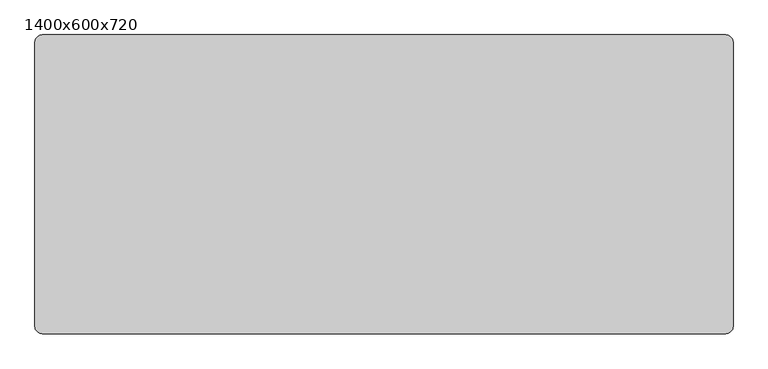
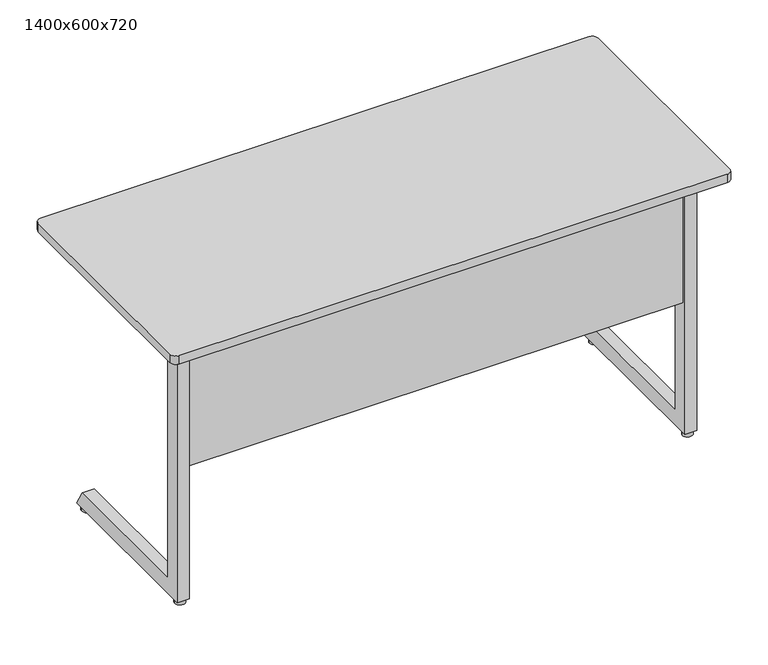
"""IFC4 building model written with IfcOpenShell, lengths in millimetres: furniture geometry, Trivia Light : 1400x600x720."""

import ifcopenshell
import ifcopenshell.guid

model = None  # the IFC model being written
_history = None  # IfcOwnerHistory: only IFC2X3 demands one
_inside = {}  # id of a spatial element -> (the spatial element, [elements in it])
_under = {}  # id of a project, library or spatial element -> (it, [spatial elements below it])
_declared = {}  # id of a project -> (the project, [libraries it declares])
_typed = {}  # id of a type object -> (the type object, [elements of that type])
_made_of = {}  # id of a material, layer set ... -> (it, [elements and type objects made of it])


def new_model(schema):
    """Start an empty IFC model of exactly this schema.

    Asked for "IFC4X3", IfcOpenShell would pick the latest addendum, in which some entities
    have other attributes; the version numbers below select the first issue.
    IFC2X3 requires an IfcOwnerHistory on every rooted entity: one is made here for all.
    """
    global model, _history
    if schema == "IFC4X3":
        model = ifcopenshell.file(schema_version=(4, 3, 0, 0))
    else:
        model = ifcopenshell.file(schema=schema)
    _inside.clear()
    _under.clear()
    _declared.clear()
    _typed.clear()
    _made_of.clear()
    _history = None
    if model.schema == "IFC2X3":
        org = make("IfcOrganization", Name="unknown")
        user = make(
            "IfcPersonAndOrganization",
            ThePerson=make("IfcPerson", FamilyName="unknown"),
            TheOrganization=org,
        )
        app = make(
            "IfcApplication",
            ApplicationDeveloper=org,
            Version="unknown",
            ApplicationFullName="unknown",
            ApplicationIdentifier="unknown",
        )
        _history = make(
            "IfcOwnerHistory",
            OwningUser=user,
            OwningApplication=app,
            ChangeAction="ADDED",
            CreationDate=0,
        )
    return model


def make(cls, **values):
    """One entity of the class cls with the attributes given. An attribute that is None is left unset."""
    return model.create_entity(
        cls, **{name: value for name, value in values.items() if value is not None}
    )


def rooted(cls, **values):
    """An entity with a GlobalId (a new one), such as an element, a storey or a relation."""
    return make(cls, GlobalId=ifcopenshell.guid.new(), OwnerHistory=_history, **values)


def si_unit(unit_type, name, prefix=None):
    """IfcSIUnit, for example si_unit("LENGTHUNIT", "METRE", prefix="MILLI")."""
    return make("IfcSIUnit", UnitType=unit_type, Prefix=prefix, Name=name)


def assignment(units):
    """IfcUnitAssignment: the units of a project."""
    return None if units is None else make("IfcUnitAssignment", Units=units)


def point(xyz):
    """IfcCartesianPoint."""
    return None if xyz is None else make("IfcCartesianPoint", Coordinates=xyz)


def direction(xyz):
    """IfcDirection."""
    return None if xyz is None else make("IfcDirection", DirectionRatios=xyz)


def frame(location, z_axis=None, x_axis=None):
    """IfcAxis2Placement3D, a coordinate frame: its origin and axes. An axis left out is left unset."""
    return make(
        "IfcAxis2Placement3D",
        Location=point(location),
        Axis=direction(z_axis),
        RefDirection=direction(x_axis),
    )


def frame_2d(location, x_axis=None):
    """IfcAxis2Placement2D, a coordinate frame in the plane: its origin and x axis."""
    return make(
        "IfcAxis2Placement2D", Location=point(location), RefDirection=direction(x_axis)
    )


def origin():
    """The frame at (0, 0, 0) with its axes left unset."""
    return frame((0.0, 0.0, 0.0))


def origin_with_axes():
    """The frame at (0, 0, 0) with the z axis (0, 0, 1) and the x axis (1, 0, 0) written out."""
    return frame((0.0, 0.0, 0.0), z_axis=(0.0, 0.0, 1.0), x_axis=(1.0, 0.0, 0.0))


def place(relative_to, where):
    """IfcLocalPlacement: puts the frame where relative to a parent placement (None: the world)."""
    return make(
        "IfcLocalPlacement", PlacementRelTo=relative_to, RelativePlacement=where
    )


def context(
    kind, dimensions, precision=None, world=None, true_north=None, identifier=None
):
    """IfcGeometricRepresentationContext, for example the 3D "Model" context."""
    return make(
        "IfcGeometricRepresentationContext",
        ContextIdentifier=identifier,
        ContextType=kind,
        CoordinateSpaceDimension=dimensions,
        Precision=precision,
        WorldCoordinateSystem=world,
        TrueNorth=true_north,
    )


def project(units=None, contexts=None):
    """IfcProject with its units and contexts."""
    return rooted(
        "IfcProject",
        Name="project",
        RepresentationContexts=contexts,
        UnitsInContext=assignment(units),
    )


def spatial(cls, under=None, at=None, **own):
    """A site, building, storey or space (cls), placed at a placement, below another one or the project."""
    s = rooted(cls, ObjectPlacement=at, **own)
    if under is not None:
        _under.setdefault(under.id(), (under, []))[1].append(s)
    return s


def polyline(points):
    """IfcPolyline through the points."""
    return make("IfcPolyline", Points=[point(p) for p in points])


def circle_curve(where, radius):
    """IfcCircle in the frame where."""
    return make("IfcCircle", Position=where, Radius=radius)


def trimmed(basis, trim1, trim2, sense, master):
    """IfcTrimmedCurve: the piece of a basis curve between two trims."""
    return make(
        "IfcTrimmedCurve",
        BasisCurve=basis,
        Trim1=trim1,
        Trim2=trim2,
        SenseAgreement=sense,
        MasterRepresentation=master,
    )


def segment(curve, same_sense, transition):
    """IfcCompositeCurveSegment."""
    return make(
        "IfcCompositeCurveSegment",
        Transition=transition,
        SameSense=same_sense,
        ParentCurve=curve,
    )


def composite_curve(segments, self_intersect=None):
    """IfcCompositeCurve: segments joined end to end."""
    return make("IfcCompositeCurve", Segments=segments, SelfIntersect=self_intersect)


def outline(outer, holes=None, kind="AREA"):
    """IfcArbitraryClosedProfileDef: a profile drawn as a closed curve; with holes, ...WithVoids."""
    if holes is None:
        return make("IfcArbitraryClosedProfileDef", ProfileType=kind, OuterCurve=outer)
    return make(
        "IfcArbitraryProfileDefWithVoids",
        ProfileType=kind,
        OuterCurve=outer,
        InnerCurves=holes,
    )


def extrude(swept, where, along, depth):
    """IfcExtrudedAreaSolid: the profile swept, set in the frame where, extruded along a direction by depth."""
    return make(
        "IfcExtrudedAreaSolid",
        SweptArea=swept,
        Position=where,
        ExtrudedDirection=direction(along),
        Depth=depth,
    )


def shape(context_of_items, identifier, shape_type, items):
    """IfcShapeRepresentation: the items that make up one representation, for example the "Body"."""
    return make(
        "IfcShapeRepresentation",
        ContextOfItems=context_of_items,
        RepresentationIdentifier=identifier,
        RepresentationType=shape_type,
        Items=items,
    )


def source(mapping_origin, context_of_items, identifier, shape_type, items):
    """IfcRepresentationMap: a shape defined once, which mapped items show again and again."""
    return make(
        "IfcRepresentationMap",
        MappingOrigin=mapping_origin,
        MappedRepresentation=shape(context_of_items, identifier, shape_type, items),
    )


def transform(
    local_origin,
    x_axis=None,
    y_axis=None,
    z_axis=None,
    scale=None,
    scale2=None,
    scale3=None,
    uniform=True,
):
    """IfcCartesianTransformationOperator3D, or its non-uniform kind. x_axis, y_axis, z_axis: its Axis1, 2, 3."""
    if uniform:
        return make(
            "IfcCartesianTransformationOperator3D",
            Axis1=direction(x_axis),
            Axis2=direction(y_axis),
            LocalOrigin=point(local_origin),
            Scale=scale,
            Axis3=direction(z_axis),
        )
    return make(
        "IfcCartesianTransformationOperator3DnonUniform",
        Axis1=direction(x_axis),
        Axis2=direction(y_axis),
        LocalOrigin=point(local_origin),
        Scale=scale,
        Axis3=direction(z_axis),
        Scale2=scale2,
        Scale3=scale3,
    )


def mapped(mapping_source, mapping_target):
    """IfcMappedItem: shows the shape of a source again, moved by a transform."""
    return make(
        "IfcMappedItem", MappingSource=mapping_source, MappingTarget=mapping_target
    )


def made_of(thing, what):
    """Note that an element or type object is made of a material, layer set ...; save() writes the relation."""
    if what is not None:
        _made_of.setdefault(what.id(), (what, []))[1].append(thing)
    return thing


def element(
    cls,
    number,
    at=None,
    inside=None,
    cuts=None,
    type_object=None,
    material=None,
    context=None,
    identifier="Body",
    shape_type=None,
    held_by="IfcProductDefinitionShape",
    body=None,
    shapes=None,
    **own,
):
    """One element of the class cls, such as IfcWall. Its Tag is "e" and its number.

    at: its placement. inside: the storey or other place that contains it. cuts: it is an
    opening in that element (IfcRelVoidsElement). A single representation is given by context,
    identifier, shape_type and body (its items); several are given by shapes. held_by: the class
    of the entity that holds the representations. save() writes the other relations.
    """
    e = rooted(cls, Tag="e%d" % number, ObjectPlacement=at, **own)
    if body is not None:
        shapes = [shape(context, identifier, shape_type, body)]
    if shapes is not None:
        e.Representation = make(held_by, Representations=shapes)
    if inside is not None:
        _inside.setdefault(inside.id(), (inside, []))[1].append(e)
    if cuts is not None:
        rooted(
            "IfcRelVoidsElement", RelatingBuildingElement=cuts, RelatedOpeningElement=e
        )
    if type_object is not None:
        _typed.setdefault(type_object.id(), (type_object, []))[1].append(e)
    return made_of(e, material)


def aggregate(whole, parts):
    """IfcRelAggregates: a whole, such as a stair, and the parts it consists of."""
    return rooted("IfcRelAggregates", RelatingObject=whole, RelatedObjects=parts)


def save(model, path):
    """Write the relations noted so far, then the file.

    IfcRelAggregates (storeys below a building ...), IfcRelContainedInSpatialStructure (elements
    in a storey), IfcRelDefinesByType, IfcRelAssociatesMaterial and IfcRelDeclares: one each for
    every whole, place, type object, material and project.
    """
    for whole, parts in _under.values():
        aggregate(whole, parts)
    for where, things in _inside.values():
        rooted(
            "IfcRelContainedInSpatialStructure",
            RelatedElements=things,
            RelatingStructure=where,
        )
    for kind, things in _typed.values():
        rooted("IfcRelDefinesByType", RelatedObjects=things, RelatingType=kind)
    for what, things in _made_of.values():
        rooted("IfcRelAssociatesMaterial", RelatedObjects=things, RelatingMaterial=what)
    for by, libraries in _declared.values():
        rooted("IfcRelDeclares", RelatingContext=by, RelatedDefinitions=libraries)
    model.write(path)


def furniture_1400x600x720_f75b4a46(model_context):
    return source(origin(), model_context, "Body", "SweptSolid", [
        extrude(outline(polyline([(484.5100173, 698.0), (469.9996059, 666.4981092), (104.0, 666.4977978), (104.0, 698.0), (484.5100173, 698.0)])), frame((-564.7535601, 0.0, 0.0), z_axis=(1.0, 0.0, 0.0), x_axis=(0.0, 1.0, 0.0)), (0.0, 0.0, 1.0), 30.0),
        extrude(outline(polyline([(693.7997437, -567.7502136), (670.730957, -567.7502136), (670.730957, -599.8065042), (675.0394353, -611.6439509), (672.2203574, -612.6700113), (667.730957, -600.3354852), (667.730957, -564.7502136), (693.7997437, -564.7502136), (693.7997437, -567.7502136)])), frame((0.0, 265.0, 0.0), z_axis=(0.0, 1.0, 0.0), x_axis=(0.0, 0.0, 1.0)), (0.0, 0.0, 1.0), 30.0),
        extrude(outline(polyline([(693.7997437, 567.7535601), (693.7997437, 564.7535601), (667.730957, 564.7535601), (667.730957, 600.3388316), (672.2203574, 612.6733577), (675.0394353, 611.6472973), (670.730957, 599.8098507), (670.730957, 567.7535601), (693.7997437, 567.7535601)])), frame((0.0, 265.0, 0.0), z_axis=(0.0, 1.0, 0.0), x_axis=(0.0, 0.0, 1.0)), (0.0, 0.0, 1.0), 30.0),
        extrude(outline(composite_curve([segment(trimmed(circle_curve(frame_2d((-635.0, 85.0)), 13.0), [point((-648.0, 85.0))], [point((-622.0, 85.0))], False, "CARTESIAN"), True, "CONTINUOUS"), segment(trimmed(circle_curve(frame_2d((-635.0, 85.0)), 13.0), [point((-622.0, 85.0))], [point((-648.0, 85.0))], False, "CARTESIAN"), True, "CONTINUOUS")], self_intersect=False)), origin_with_axes(), (0.0, 0.0, 1.0), 13.0905762),
        extrude(outline(composite_curve([segment(trimmed(circle_curve(frame_2d((635.0, 85.0)), 13.0), [point((622.0, 85.0))], [point((648.0, 85.0))], False, "CARTESIAN"), True, "CONTINUOUS"), segment(trimmed(circle_curve(frame_2d((635.0, 85.0)), 13.0), [point((648.0, 85.0))], [point((622.0, 85.0))], False, "CARTESIAN"), True, "CONTINUOUS")], self_intersect=False)), origin_with_axes(), (0.0, 0.0, 1.0), 13.0905762),
        extrude(outline(composite_curve([segment(trimmed(circle_curve(frame_2d((635.0, 487.5)), 13.0), [point((622.0, 487.5))], [point((648.0, 487.5))], False, "CARTESIAN"), True, "CONTINUOUS"), segment(trimmed(circle_curve(frame_2d((635.0, 487.5)), 13.0), [point((648.0, 487.5))], [point((622.0, 487.5))], False, "CARTESIAN"), True, "CONTINUOUS")], self_intersect=False)), origin_with_axes(), (0.0, 0.0, 1.0), 13.0905762),
        extrude(outline(composite_curve([segment(trimmed(circle_curve(frame_2d((-635.0, 487.5)), 13.0), [point((-648.0, 487.5))], [point((-622.0, 487.5))], False, "CARTESIAN"), True, "CONTINUOUS"), segment(trimmed(circle_curve(frame_2d((-635.0, 487.5)), 13.0), [point((-622.0, 487.5))], [point((-648.0, 487.5))], False, "CARTESIAN"), True, "CONTINUOUS")], self_intersect=False)), origin_with_axes(), (0.0, 0.0, 1.0), 13.0905762),
        extrude(outline(polyline([(484.5100173, 698.0), (469.9996059, 666.4981092), (104.0, 666.4977978), (104.0, 698.0), (484.5100173, 698.0)])), frame((534.7535601, 0.0, 0.0), z_axis=(1.0, 0.0, 0.0), x_axis=(0.0, 1.0, 0.0)), (0.0, 0.0, 1.0), 30.0),
        extrude(outline(composite_curve([segment(trimmed(circle_curve(frame_2d((685.0, 585.0)), 15.0), [point((685.0, 600.0))], [point((700.0, 585.0))], False, "CARTESIAN"), True, "CONTINUOUS"), segment(polyline([(700.0, 585.0), (700.0, 15.0)]), True, "CONTINUOUS"), segment(trimmed(circle_curve(frame_2d((685.0, 15.0)), 15.0), [point((700.0, 15.0))], [point((685.0, 0.0))], False, "CARTESIAN"), True, "CONTINUOUS"), segment(polyline([(685.0, 0.0), (-685.0, 0.0)]), True, "CONTINUOUS"), segment(trimmed(circle_curve(frame_2d((-685.0, 15.0)), 15.0), [point((-685.0, 0.0))], [point((-700.0, 15.0))], False, "CARTESIAN"), True, "CONTINUOUS"), segment(polyline([(-700.0, 15.0), (-700.0, 585.0)]), True, "CONTINUOUS"), segment(trimmed(circle_curve(frame_2d((-685.0, 585.0)), 15.0), [point((-700.0, 585.0))], [point((-685.0, 600.0))], False, "CARTESIAN"), True, "CONTINUOUS"), segment(polyline([(-685.0, 600.0), (685.0, 600.0)]), True, "CONTINUOUS")], self_intersect=False)), frame((0.0, 0.0, 698.0), z_axis=(0.0, 0.0, 1.0), x_axis=(1.0, 0.0, 0.0)), (0.0, 0.0, 1.0), 22.0),
        extrude(outline(polyline([(619.7534307, 104.0), (619.7534307, 74.0), (-619.7534307, 74.0), (-619.7534307, 104.0), (619.7534307, 104.0)])), frame((0.0, 0.0, 656.0), z_axis=(0.0, 0.0, 1.0), x_axis=(1.0, 0.0, 0.0)), (0.0, 0.0, 1.0), 42.0),
        extrude(outline(polyline([(112.0, 51.5905762), (482.1448423, 51.5905762), (504.8944033, 11.5905762), (70.0, 11.5905762), (70.0, 698.0), (112.0, 698.0), (112.0, 51.5905762)])), frame((-649.7535601, 0.0, 0.0), z_axis=(1.0, 0.0, 0.0), x_axis=(0.0, 1.0, 0.0)), (0.0, 0.0, 1.0), 30.0001294),
        extrude(outline(polyline([(112.0, 51.5905762), (482.1448423, 51.5905762), (504.8944033, 11.5905762), (70.0, 11.5905762), (70.0, 698.0), (112.0, 698.0), (112.0, 51.5905762)])), frame((619.7534307, 0.0, 0.0), z_axis=(1.0, 0.0, 0.0), x_axis=(0.0, 1.0, 0.0)), (0.0, 0.0, 1.0), 30.0001294),
        extrude(outline(polyline([(619.7534307, 95.9187166), (619.7534307, 77.9321552), (-619.7534307, 77.9321552), (-619.7534307, 95.9187166), (619.7534307, 95.9187166)])), frame((0.0, 0.0, 356.5950628), z_axis=(0.0, 0.0, 1.0), x_axis=(1.0, 0.0, 0.0)), (0.0, 0.0, 1.0), 299.4049372),
    ])


if __name__ == "__main__":
    model = new_model("IFC4")
    model_context = context("Model", 3, world=origin())
    ifc_project = project(units=[si_unit("LENGTHUNIT", "METRE", prefix="MILLI")], contexts=[model_context])
    site = spatial("IfcSite", under=ifc_project)
    building = spatial("IfcBuilding", under=site)
    placement = place(None, origin())
    furniture_1400x600x720_shape = furniture_1400x600x720_f75b4a46(model_context)
    element("IfcFurniture", 1, ObjectType="Trivia Light : 1400x600x720", at=placement, inside=building, context=model_context, shape_type="MappedRepresentation", body=[
        mapped(furniture_1400x600x720_shape, transform((0.0, 0.0, 0.0), x_axis=(1.0, 0.0, 0.0), y_axis=(0.0, 1.0, 0.0), z_axis=(0.0, 0.0, 1.0))),
    ])
    save(model, "model.ifc")
